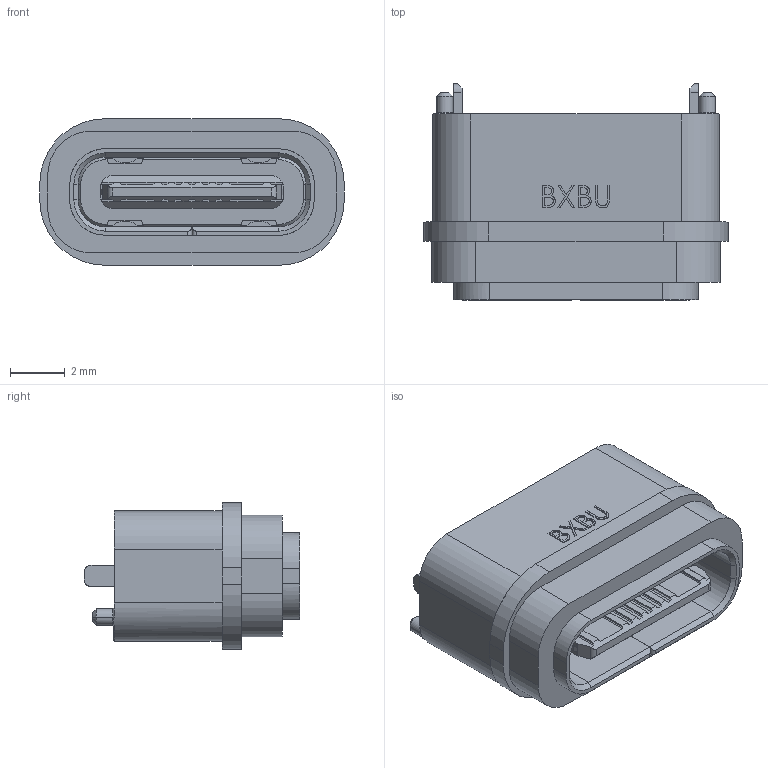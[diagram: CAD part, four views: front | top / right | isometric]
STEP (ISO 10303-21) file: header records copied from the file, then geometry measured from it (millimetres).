
FILE_DESCRIPTION (( 'STEP AP203' ), '1' );
FILE_NAME ('U5209-16PN6.8LF .STEP', '2026-09-22T01:34:04', ( '' ), ( '' ), 'SwSTEP 2.0', 'SolidWorks 2024', '' );
FILE_SCHEMA (( 'CONFIG_CONTROL_DESIGN' ));
Length unit declared in the file: millimetre
Products named in the file (1): U5209-16PN6.8LF 
Bounding box: 11.14 x 7.9 x 5.36 mm (x, y, z)
Volume: 238.8 mm3; surface area: 654.5 mm2
Topology: 2 solids, 29 shells, 1349 faces, 3746 edges, 2444 vertices
Faces by surface type: plane 1025, cylinder 224, cone 71, bspline 29
Entity records: 45017 total; most frequent: CARTESIAN_POINT 12368, ORIENTED_EDGE 7476, DIRECTION 5550, EDGE_CURVE 3738, LINE 2690, VECTOR 2690, VERTEX_POINT 2444, AXIS2_PLACEMENT_3D 1430
